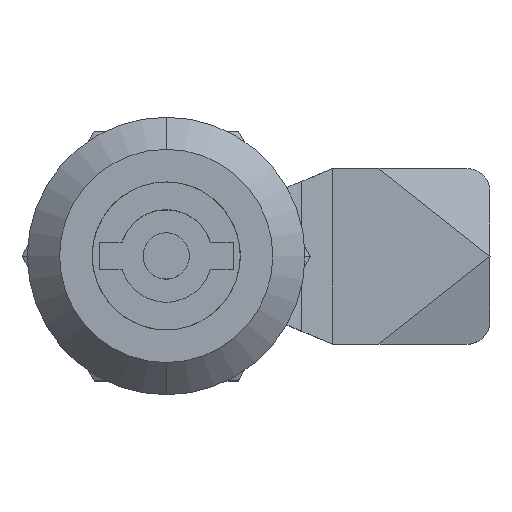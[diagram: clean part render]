
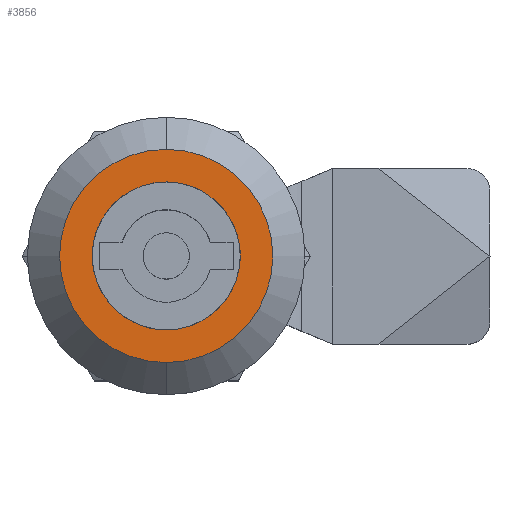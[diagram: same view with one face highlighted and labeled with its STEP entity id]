
A CAD part, top view. The second image highlights one B-rep face of the part: STEP entity #3856.
In plain terms, the highlighted planar face has unit normal (0, 0, 1).
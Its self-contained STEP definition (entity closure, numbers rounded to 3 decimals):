
#28 = AXIS2_PLACEMENT_3D ( 'NONE', #5570, #3788, #4660 ) ;
#79 = VERTEX_POINT ( 'NONE', #1703 ) ;
#111 = CARTESIAN_POINT ( 'NONE',  ( 8., 4., 5. ) ) ;
#112 = DIRECTION ( 'NONE',  ( 0., 0., -1. ) ) ;
#153 = CARTESIAN_POINT ( 'NONE',  ( 0., -8., 5. ) ) ;
#179 = AXIS2_PLACEMENT_3D ( 'NONE', #2809, #112, #4663 ) ;
#180 = CARTESIAN_POINT ( 'NONE',  ( -8., 4., 5. ) ) ;
#222 = ORIENTED_EDGE ( 'NONE', *, *, #2672, .F. ) ;
#241 = ORIENTED_EDGE ( 'NONE', *, *, #421, .F. ) ;
#407 = FACE_OUTER_BOUND ( 'NONE', #710, .T. ) ;
#421 = EDGE_CURVE ( 'NONE', #4916, #79, #4518, .T. ) ;
#451 = DIRECTION ( 'NONE',  ( 0., 0., -1. ) ) ;
#684 = PLANE ( 'NONE',  #28 ) ;
#710 = EDGE_LOOP ( 'NONE', ( #222, #241 ) ) ;
#1055 = ORIENTED_EDGE ( 'NONE', *, *, #4371, .F. ) ;
#1057 = CIRCLE ( 'NONE', #1885, 11.525 ) ;
#1536 = CARTESIAN_POINT ( 'NONE',  ( 5.333, -8., 5. ) ) ;
#1703 = CARTESIAN_POINT ( 'NONE',  ( 0., 11.525, 5. ) ) ;
#1885 = AXIS2_PLACEMENT_3D ( 'NONE', #4015, #451, #5395 ) ;
#1993 = CARTESIAN_POINT ( 'NONE',  ( -8., 0., 5. ) ) ;
#2221 = FACE_BOUND ( 'NONE', #4288, .T. ) ;
#2366 = CARTESIAN_POINT ( 'NONE',  ( 8., -4., 5. ) ) ;
#2424 = VERTEX_POINT ( 'NONE', #2813 ) ;
#2488 =( BOUNDED_CURVE ( )  B_SPLINE_CURVE ( 3, ( #5111, #2896, #180, #1993, #5192, #4215, #2909 ),
 .UNSPECIFIED., .F., .T. ) 
 B_SPLINE_CURVE_WITH_KNOTS ( ( 4, 3, 4 ),
 ( 0.75, 1., 1.25 ),
 .UNSPECIFIED. ) 
 CURVE ( )  GEOMETRIC_REPRESENTATION_ITEM ( )  RATIONAL_B_SPLINE_CURVE ( ( 0.5, 0.5, 0.667, 1., 0.667, 0.5, 0.5 ) ) 
 REPRESENTATION_ITEM ( '' )  );
#2672 = EDGE_CURVE ( 'NONE', #79, #4916, #1057, .T. ) ;
#2809 = CARTESIAN_POINT ( 'NONE',  ( 0., 0., 5. ) ) ;
#2813 = CARTESIAN_POINT ( 'NONE',  ( 0., -8., 5. ) ) ;
#2896 = CARTESIAN_POINT ( 'NONE',  ( -5.333, 8., 5. ) ) ;
#2909 = CARTESIAN_POINT ( 'NONE',  ( 0., -8., 5. ) ) ;
#2949 = CARTESIAN_POINT ( 'NONE',  ( 0., -11.525, 5. ) ) ;
#3233 = ORIENTED_EDGE ( 'NONE', *, *, #5333, .F. ) ;
#3332 = CARTESIAN_POINT ( 'NONE',  ( 0., 8., 5. ) ) ;
#3788 = DIRECTION ( 'NONE',  ( 0., 0., 1. ) ) ;
#3856 = ADVANCED_FACE ( 'NONE', ( #407, #2221 ), #684, .T. ) ;
#3950 = VERTEX_POINT ( 'NONE', #3332 ) ;
#3962 =( BOUNDED_CURVE ( )  B_SPLINE_CURVE ( 3, ( #153, #1536, #2366, #4662, #111, #5178, #4766 ),
 .UNSPECIFIED., .F., .T. ) 
 B_SPLINE_CURVE_WITH_KNOTS ( ( 4, 3, 4 ),
 ( 0.25, 0.5, 0.75 ),
 .UNSPECIFIED. ) 
 CURVE ( )  GEOMETRIC_REPRESENTATION_ITEM ( )  RATIONAL_B_SPLINE_CURVE ( ( 0.5, 0.5, 0.667, 1., 0.667, 0.5, 0.5 ) ) 
 REPRESENTATION_ITEM ( '' )  );
#4015 = CARTESIAN_POINT ( 'NONE',  ( 0., 0., 5. ) ) ;
#4215 = CARTESIAN_POINT ( 'NONE',  ( -5.333, -8., 5. ) ) ;
#4288 = EDGE_LOOP ( 'NONE', ( #3233, #1055 ) ) ;
#4371 = EDGE_CURVE ( 'NONE', #3950, #2424, #2488, .T. ) ;
#4518 = CIRCLE ( 'NONE', #179, 11.525 ) ;
#4660 = DIRECTION ( 'NONE',  ( 1., 0., 0. ) ) ;
#4662 = CARTESIAN_POINT ( 'NONE',  ( 8., 0., 5. ) ) ;
#4663 = DIRECTION ( 'NONE',  ( 0., 1., 0. ) ) ;
#4766 = CARTESIAN_POINT ( 'NONE',  ( 0., 8., 5. ) ) ;
#4916 = VERTEX_POINT ( 'NONE', #2949 ) ;
#5111 = CARTESIAN_POINT ( 'NONE',  ( 0., 8., 5. ) ) ;
#5178 = CARTESIAN_POINT ( 'NONE',  ( 5.333, 8., 5. ) ) ;
#5192 = CARTESIAN_POINT ( 'NONE',  ( -8., -4., 5. ) ) ;
#5333 = EDGE_CURVE ( 'NONE', #2424, #3950, #3962, .T. ) ;
#5395 = DIRECTION ( 'NONE',  ( 0., 1., 0. ) ) ;
#5570 = CARTESIAN_POINT ( 'NONE',  ( -11.525, -11.525, 5. ) ) ;
